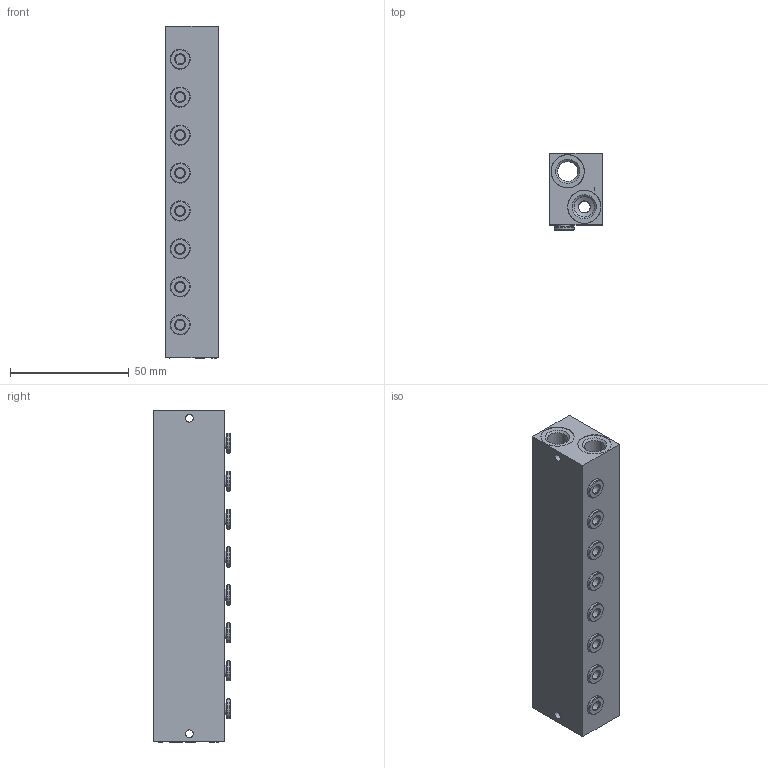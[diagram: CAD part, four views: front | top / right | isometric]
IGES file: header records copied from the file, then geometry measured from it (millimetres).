
Global section: file name: 354_08; native system: Autodesk Inventor 2014; preprocessor: unknown; author: R.Rivoltella; organization: Pneumax S.p.A.; date: 20161003.105226; units: millimetre
Bounding box: 22 x 32.25 x 140 mm (x, y, z)
Volume: 79152.2 mm3; surface area: 25269 mm2
Topology: 1 solids, 1 shells, 150 faces, 432 edges, 314 vertices
Faces by surface type: bspline 150
